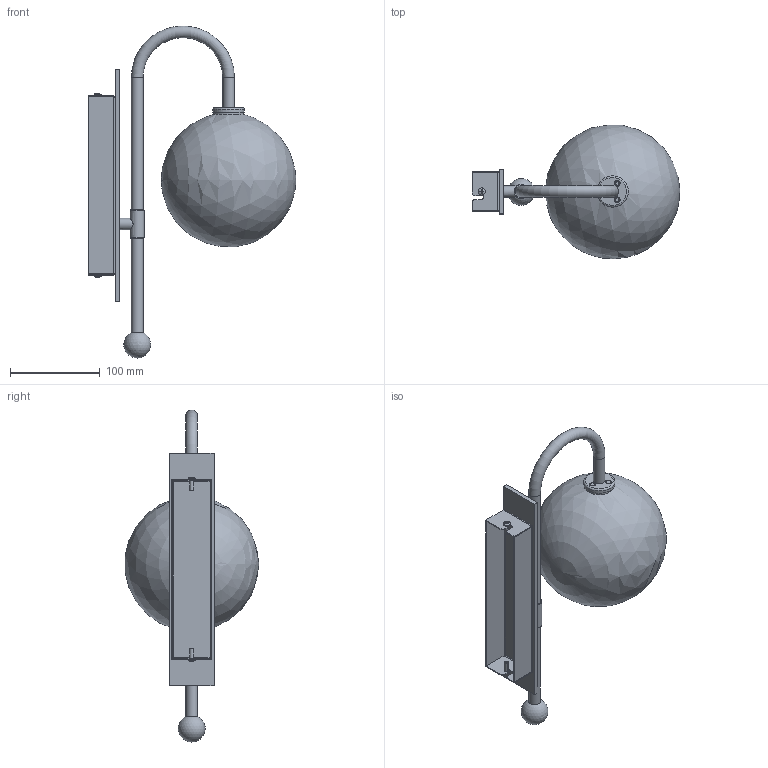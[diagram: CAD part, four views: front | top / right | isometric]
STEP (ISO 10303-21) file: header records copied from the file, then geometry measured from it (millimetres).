
FILE_DESCRIPTION(/* description */ (''),/* implementation_level */ '2;1');
FILE_NAME(/* name */ 'T:\B068 Naples Wall Scone\Pliki bryłowe handlowe\B068 Naples 3D files\B068 Naples.stp',/* time_stamp */ '2022-01-18T15:18:06+01:00',/* author */ ('Mariusz Awariusz'),/* organization */ (''),/* preprocessor_version */ 'ST-DEVELOPER v18.1',/* originating_system */ 'Autodesk Inventor 2022',/* authorisation */ '');
FILE_SCHEMA (('AUTOMOTIVE_DESIGN { 1 0 10303 214 3 1 1 }'));
Length unit declared in the file: millimetre
Products named in the file (1): B068 Naples_jako część
Bounding box: 231.6 x 149.12 x 370.56 mm (x, y, z)
Volume: 310478 mm3; surface area: 223930.6 mm2
Topology: 4 solids, 6 shells, 188 faces, 447 edges, 283 vertices
Faces by surface type: plane 90, cylinder 61, cone 20, bspline 8, sphere 6, torus 3
Full cylindrical faces by diameter (mm): 2.693 x3, 3 x6, 4 x3, 5.5 x3, 8 x2, 11.6 x1, 11.917 x2, 13 x5, 16 x1, 25 x1, 33 x1, 35 x1
Entity records: 5757 total; most frequent: CARTESIAN_POINT 1305, DIRECTION 945, ORIENTED_EDGE 882, EDGE_CURVE 441, AXIS2_PLACEMENT_3D 347, VERTEX_POINT 283, LINE 251, VECTOR 251
